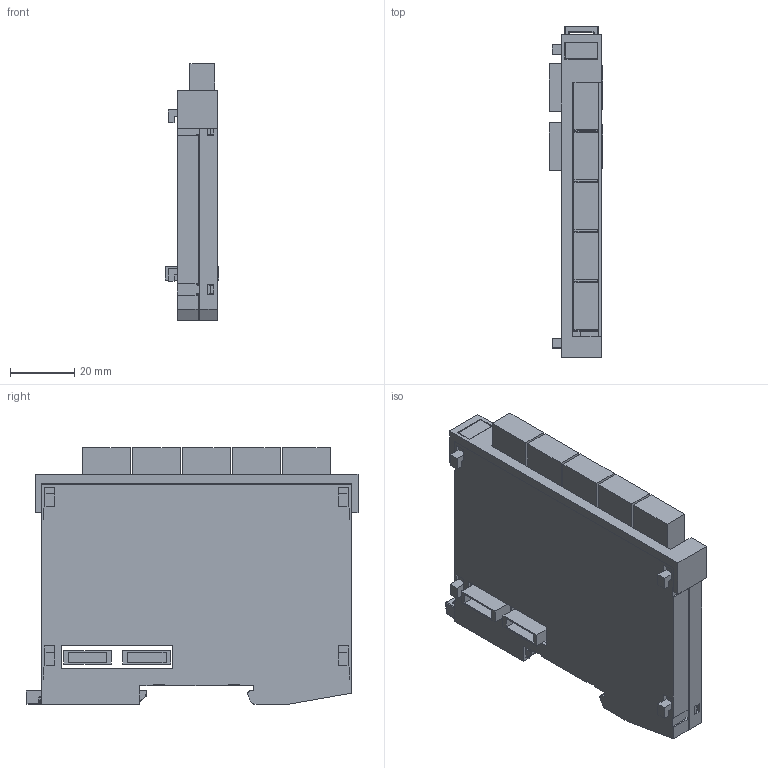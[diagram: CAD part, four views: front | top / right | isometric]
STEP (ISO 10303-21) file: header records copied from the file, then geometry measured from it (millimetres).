
FILE_DESCRIPTION (( 'STEP AP214' ), '1' );
FILE_NAME ('SDI101.STEP', '2015-07-06T09:40:18', ( 'SIGMATEK GmbH & Co KG' ), ( 'SIGMATEK GmbH & Co KG' ), 'SwSTEP 2.0', 'SolidWorks 2013', '' );
FILE_SCHEMA (( 'AUTOMOTIVE_DESIGN' ));
Length unit declared in the file: millimetre
Products named in the file (11): S-Dias Schale rechts_f Suport 2 Stecker; S-Dias Schale links_f Suport 2 Stecker; 4110251342_MF 10-5 MC CABUR_1854510000; SDI101; LP_SDI101; Dummy_4080225346 Erni Stift; Dummy_4080225345 Erni Buchse; Dummy_4110262104 4pol.Federkraftstecker f.2reih 1952283; Dummy_4110251205 4pol.Minicombicon-Grundgehäuse RM3,5 1937512; S-Dias Rasthaken 20130313; Schieber_f Suport
Assembly tree (20 placements, depth 3):
  SDI101
    4110251342_MF 10-5 MC CABUR_1854510000
    S-Dias Schale links_f Suport 2 Stecker
    S-Dias Schale rechts_f Suport 2 Stecker
    Schieber_f Suport
    S-Dias Rasthaken 20130313
    LP_SDI101
      Dummy_4110251205 4pol.Minicombicon-Grundgehäuse RM3,5 1937512  x5
      Dummy_4110262104 4pol.Federkraftstecker f.2reih 1952283  x5
      Dummy_4080225345 Erni Buchse  x2
      Dummy_4080225346 Erni Stift  x2
Bounding box: 16.8 x 103.61 x 80.15 mm (x, y, z)
Volume: 35190.5 mm3; surface area: 47408.1 mm2
Topology: 19 solids, 19 shells, 839 faces, 2401 edges, 1590 vertices
Faces by surface type: plane 600, cylinder 128, bspline 55, cone 28, torus 15, sphere 13
Entity records: 30091 total; most frequent: CARTESIAN_POINT 7181, ORIENTED_EDGE 4424, DIRECTION 3453, EDGE_CURVE 2212, LINE 1563, VECTOR 1563, VERTEX_POINT 1470, AXIS2_PLACEMENT_3D 945
